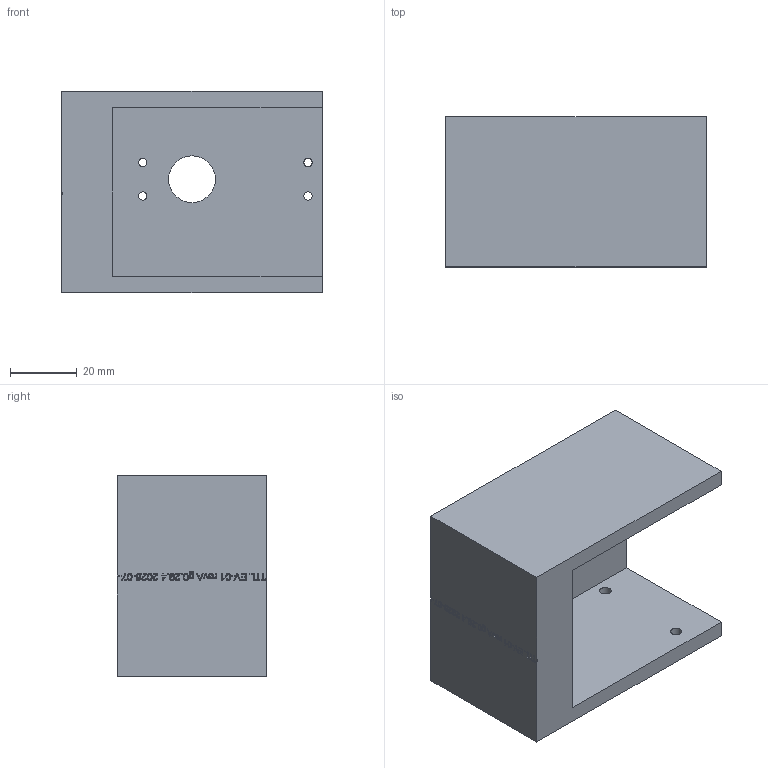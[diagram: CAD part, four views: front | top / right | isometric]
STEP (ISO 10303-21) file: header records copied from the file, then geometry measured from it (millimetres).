
FILE_DESCRIPTION(('Open CASCADE Model'),'2;1');
FILE_NAME('Open CASCADE Shape Model','2026-07-25T17:42:38',('Author'),( 'Open CASCADE'),'Open CASCADE STEP processor 7.9','build123d', 'Unknown');
FILE_SCHEMA(('AUTOMOTIVE_DESIGN { 1 0 10303 214 1 1 1 1 }'));
Length unit declared in the file: millimetre
Products named in the file (1): COMPOUND
Bounding box: 78 x 44.9 x 60.35 mm (x, y, z)
Volume: 84123.4 mm3; surface area: 27121.9 mm2
Topology: 1 solids, 1 shells, 451 faces, 1230 edges, 820 vertices
Faces by surface type: extrusion 259, plane 183, cylinder 9
Full cylindrical faces by diameter (mm): 2.5 x4, 3.4 x4, 14 x1
Entity records: 34416 total; most frequent: CARTESIAN_POINT 12598, DIRECTION 2753, ORIENTED_EDGE 2460, PCURVE 2460, DEFINITIONAL_REPRESENTATION 2460, VECTOR 2323, LINE 2064, B_SPLINE_CURVE_WITH_KNOTS 1849
